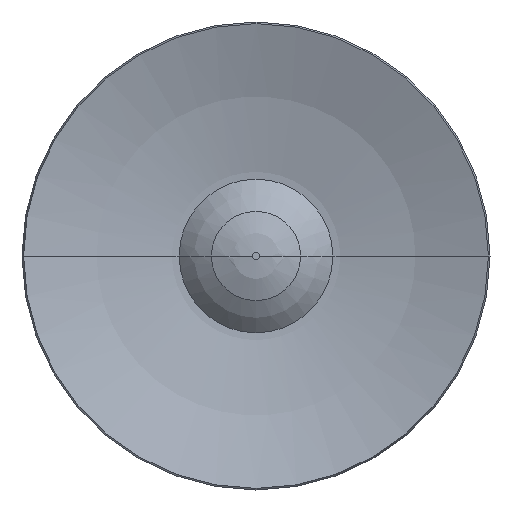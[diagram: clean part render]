
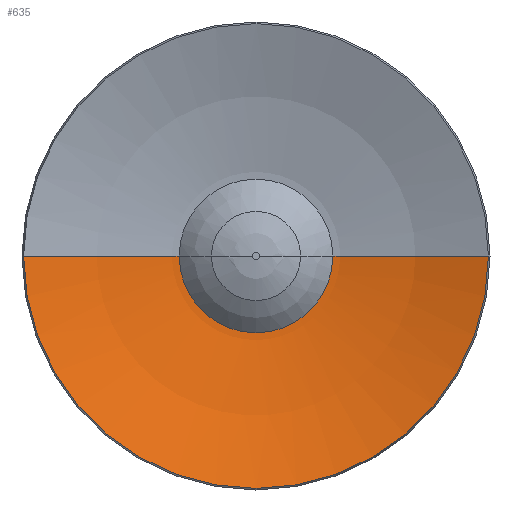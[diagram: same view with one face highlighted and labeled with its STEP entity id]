
A CAD part, front view. The second image highlights one B-rep face of the part: STEP entity #635.
In plain terms, the highlighted spherical face has radius 438.667 mm.
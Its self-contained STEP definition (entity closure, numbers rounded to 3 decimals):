
#490=CARTESIAN_POINT('',(0.,26.97,0.));
#491=DIRECTION('',(0.,1.,0.));
#492=DIRECTION('',(1.,0.,0.));
#493=AXIS2_PLACEMENT_3D('',#490,#491,#492);
#495=CARTESIAN_POINT('',(0.,-2.796,0.));
#496=DIRECTION('',(0.,-1.,0.));
#497=DIRECTION('',(-1.,0.,0.));
#498=AXIS2_PLACEMENT_3D('',#495,#496,#497);
#505=CARTESIAN_POINT('',(0.,-411.667,0.));
#506=DIRECTION('',(0.,0.,-1.));
#507=DIRECTION('',(-0.362,0.932,0.));
#508=AXIS2_PLACEMENT_3D('',#505,#506,#507);
#515=CARTESIAN_POINT('',(0.,-411.667,0.));
#516=DIRECTION('',(0.,0.,1.));
#517=DIRECTION('',(0.362,0.932,0.));
#518=AXIS2_PLACEMENT_3D('',#515,#516,#517);
#521=CARTESIAN_POINT('',(-158.913,-2.796,0.));
#523=VERTEX_POINT('',#521);
#525=CARTESIAN_POINT('',(158.913,-2.796,
0.));
#527=VERTEX_POINT('',#525);
#532=CARTESIAN_POINT('',(5.125,26.97,0.));
#533=CARTESIAN_POINT('',(-5.125,26.97,0.));
#534=VERTEX_POINT('',#532);
#535=VERTEX_POINT('',#533);
#622=CARTESIAN_POINT('',(0.,-411.667,0.));
#623=DIRECTION('',(0.,-1.,0.));
#624=DIRECTION('',(-1.,0.,0.));
#625=AXIS2_PLACEMENT_3D('',#622,#623,#624);
#626=SPHERICAL_SURFACE('',#625,438.667);
#627=ORIENTED_EDGE('',*,*,#560,.F.);
#629=ORIENTED_EDGE('',*,*,#628,.F.);
#630=ORIENTED_EDGE('',*,*,#615,.F.);
#632=ORIENTED_EDGE('',*,*,#631,.T.);
#633=EDGE_LOOP('',(#627,#629,#630,#632));
#634=FACE_OUTER_BOUND('',#633,.F.);
#635=ADVANCED_FACE('',(#634),#626,.F.);
#494=CIRCLE('',#493,5.125);
#499=CIRCLE('',#498,158.913);
#509=CIRCLE('',#508,438.667);
#519=CIRCLE('',#518,438.667);
#560=EDGE_CURVE('',#534,#535,#494,.T.);
#615=EDGE_CURVE('',#523,#527,#499,.T.);
#628=EDGE_CURVE('',#527,#534,#519,.T.);
#631=EDGE_CURVE('',#523,#535,#509,.T.);
